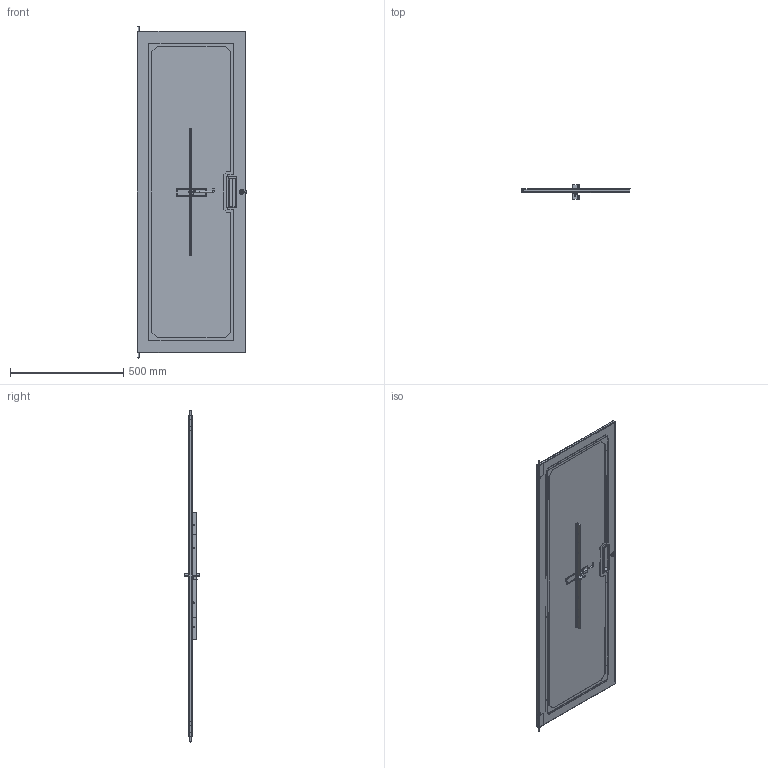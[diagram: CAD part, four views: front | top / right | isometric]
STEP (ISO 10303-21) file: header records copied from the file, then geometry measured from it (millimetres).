
FILE_DESCRIPTION( ( 'Unknown' ), '1' );
FILE_NAME( 'Q:/REFK/DOORS/PLEXI/WEB DRAWINGS/STEP/REDFP19056.stp', 'Unknown', ( 'Unknown' ), ( 'Unknown' ), 'XStep 1.0', 'Unknown', ' ' );
FILE_SCHEMA( ( 'CONFIG_CONTROL_DESIGN' ) );
Length unit declared in the file: millimetre
Products named in the file (22): Assem1; Assem2; 1; 2; 3; 4; 5; 6; 7; 8; 9; 10; 11; 12; 13; 14; 15; 16; 17; 18; 19; 20
Bounding box: 484.17 x 69.85 x 1463.95 mm (x, y, z)
Volume: 7794376.9 mm3; surface area: 4154305.9 mm2
Topology: 61 solids, 61 shells, 990 faces, 2389 edges, 1542 vertices
Faces by surface type: plane 653, cylinder 268, cone 47, bspline 16, torus 6
Full cylindrical faces by diameter (mm): 4.775 x36, 5.182 x3, 6.35 x45, 8.382 x2, 13.868 x2, 13.97 x2, 21.996 x2
Entity records: 10633 total; most frequent: CARTESIAN_POINT 2012, DIRECTION 1629, ORIENTED_EDGE 1464, EDGE_CURVE 732, AXIS2_PLACEMENT_3D 570, VERTEX_POINT 501, LINE 489, VECTOR 489
